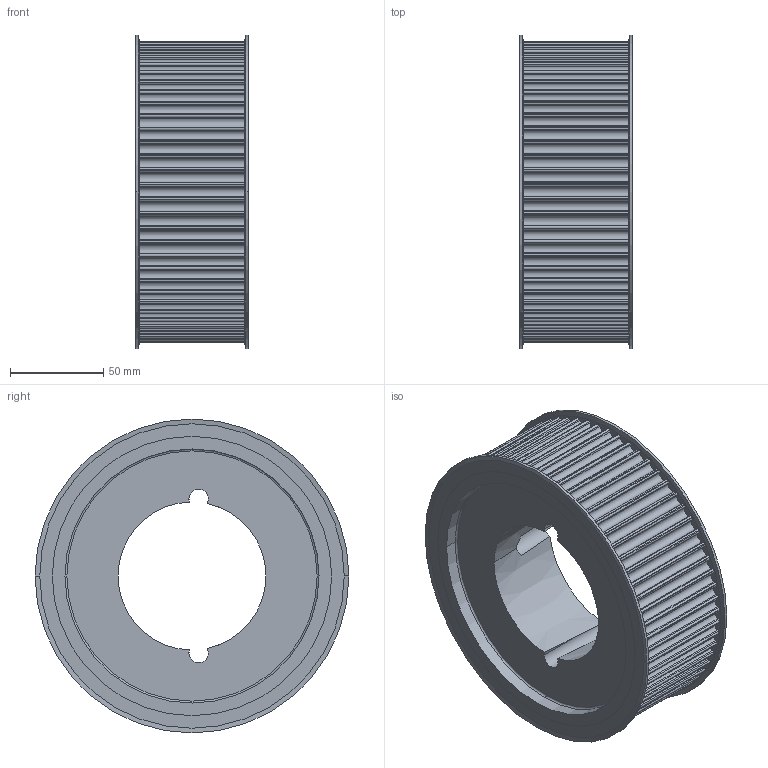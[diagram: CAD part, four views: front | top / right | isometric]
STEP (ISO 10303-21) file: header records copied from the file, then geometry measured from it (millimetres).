
FILE_DESCRIPTION( ( '' ), '1' );
FILE_NAME( 'C:/Users/Stangenbergd/Documents/CAD_Step/1/17477432.stp', '2021-10-19T10:20:54', ( '' ), ( '' ), ' ', ' ', ' ' );
FILE_SCHEMA( ( 'CONFIG_CONTROL_DESIGN' ) );
Length unit declared in the file: millimetre
Products named in the file (1): 1
Bounding box: 60.4 x 168 x 168 mm (x, y, z)
Volume: 711248.1 mm3; surface area: 101688.5 mm2
Topology: 1 solids, 1 shells, 430 faces, 1261 edges, 837 vertices
Faces by surface type: cylinder 276, plane 136, cone 14, torus 4
Entity records: 14697 total; most frequent: DIRECTION 2687, CARTESIAN_POINT 2675, ORIENTED_EDGE 2518, EDGE_CURVE 1259, AXIS2_PLACEMENT_3D 1009, VERTEX_POINT 837, LINE 669, VECTOR 669
